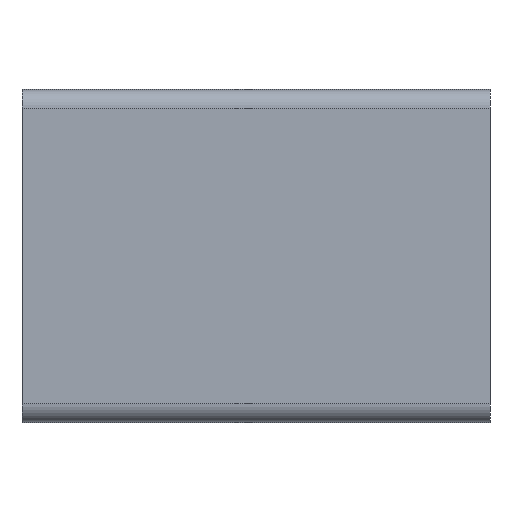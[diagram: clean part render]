
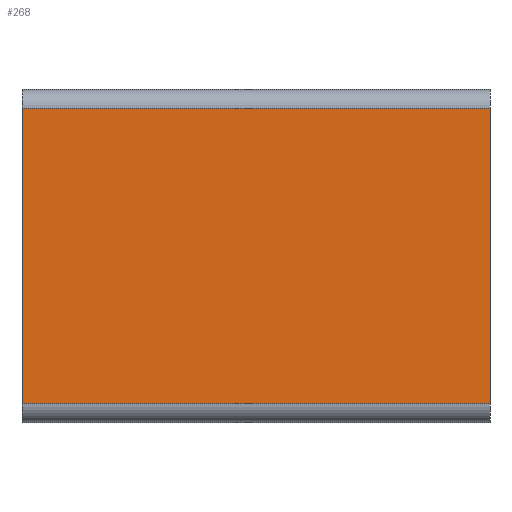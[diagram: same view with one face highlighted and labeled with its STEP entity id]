
A CAD part, front view. The second image highlights one B-rep face of the part: STEP entity #268.
In plain terms, the highlighted planar face has unit normal (0, -1, 0).
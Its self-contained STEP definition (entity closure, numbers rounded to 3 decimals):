
#210=CARTESIAN_POINT('',(100.0,-100.75,4.0));
#211=VERTEX_POINT('',#210);
#219=CARTESIAN_POINT('',(0.0,-100.75,4.0));
#220=VERTEX_POINT('',#219);
#221=CARTESIAN_POINT('',(0.0,-100.75,4.0));
#222=DIRECTION('',(1.0,0.0,0.0));
#223=VECTOR('',#222,100.0);
#224=LINE('',#221,#223);
#225=EDGE_CURVE('',#220,#211,#224,.T.);
#238=CARTESIAN_POINT('',(0.0,-100.75,4.0));
#239=DIRECTION('',(0.0,-1.0,0.0));
#240=DIRECTION('',(0.0,0.0,-1.0));
#241=AXIS2_PLACEMENT_3D('',#238,#239,#240);
#242=PLANE('',#241);
#243=CARTESIAN_POINT('',(100.0,-100.75,67.2));
#244=VERTEX_POINT('',#243);
#245=CARTESIAN_POINT('',(100.0,-100.75,4.0));
#246=DIRECTION('',(0.0,0.0,1.0));
#247=VECTOR('',#246,63.2);
#248=LINE('',#245,#247);
#249=EDGE_CURVE('',#211,#244,#248,.T.);
#250=ORIENTED_EDGE('',*,*,#249,.T.);
#251=CARTESIAN_POINT('',(0.0,-100.75,67.2));
#252=VERTEX_POINT('',#251);
#253=CARTESIAN_POINT('',(0.0,-100.75,67.2));
#254=DIRECTION('',(1.0,0.0,0.0));
#255=VECTOR('',#254,100.0);
#256=LINE('',#253,#255);
#257=EDGE_CURVE('',#252,#244,#256,.T.);
#258=ORIENTED_EDGE('',*,*,#257,.F.);
#259=CARTESIAN_POINT('',(0.0,-100.75,67.2));
#260=DIRECTION('',(0.0,0.0,-1.0));
#261=VECTOR('',#260,63.2);
#262=LINE('',#259,#261);
#263=EDGE_CURVE('',#252,#220,#262,.T.);
#264=ORIENTED_EDGE('',*,*,#263,.T.);
#265=ORIENTED_EDGE('',*,*,#225,.T.);
#266=EDGE_LOOP('',(#250,#258,#264,#265));
#267=FACE_OUTER_BOUND('',#266,.T.);
#268=ADVANCED_FACE('',(#267),#242,.T.);
